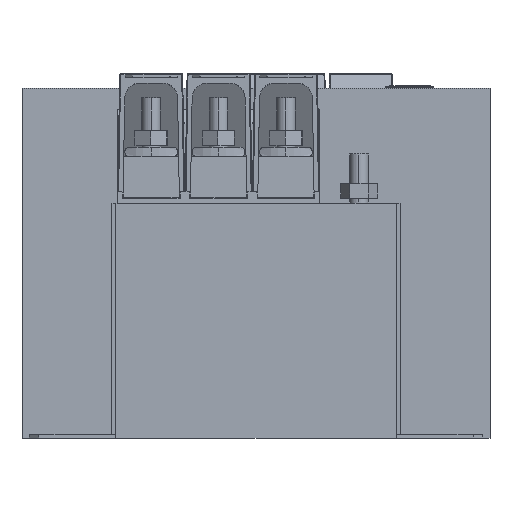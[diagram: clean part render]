
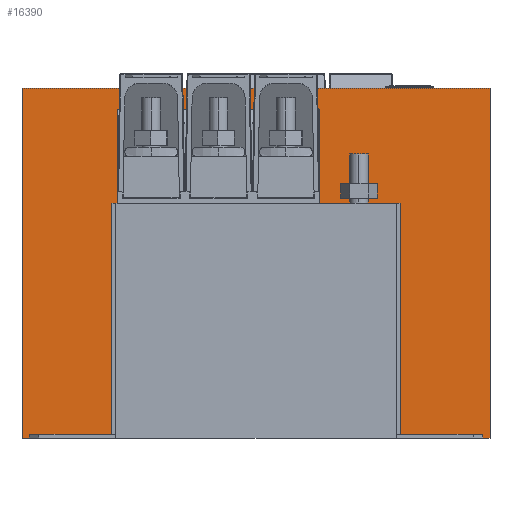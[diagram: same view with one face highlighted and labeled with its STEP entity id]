
A CAD part, front view. The second image highlights one B-rep face of the part: STEP entity #16390.
In plain terms, the highlighted planar face has unit normal (0, -1, 0).
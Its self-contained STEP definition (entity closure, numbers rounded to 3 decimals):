
#161 = LINE ( 'NONE', #14701, #9220 ) ;
#192 = LINE ( 'NONE', #12742, #9658 ) ;
#548 = EDGE_CURVE ( 'NONE', #5777, #17237, #18847, .T. ) ;
#655 = EDGE_LOOP ( 'NONE', ( #5323, #15002, #8562, #17853, #9455, #11563, #7352, #4777, #2252, #10091, #5212, #3419, #3311, #11984, #19832, #18899 ) ) ;
#675 = EDGE_CURVE ( 'NONE', #6131, #16543, #11612, .T. ) ;
#699 = CARTESIAN_POINT ( 'NONE',  ( -123., -305., 2. ) ) ;
#964 = EDGE_CURVE ( 'NONE', #1305, #13252, #19620, .T. ) ;
#1152 = DIRECTION ( 'NONE',  ( 0., 0., -1. ) ) ;
#1181 = DIRECTION ( 'NONE',  ( 1., 0., 0. ) ) ;
#1298 = CARTESIAN_POINT ( 'NONE',  ( -77., -305., 125.5 ) ) ;
#1305 = VERTEX_POINT ( 'NONE', #5159 ) ;
#1452 = VERTEX_POINT ( 'NONE', #3255 ) ;
#1459 = CARTESIAN_POINT ( 'NONE',  ( -121., -305., 2. ) ) ;
#1491 = LINE ( 'NONE', #7853, #10397 ) ;
#1504 = EDGE_CURVE ( 'NONE', #19215, #17696, #17801, .T. ) ;
#1509 = EDGE_CURVE ( 'NONE', #6131, #15026, #4728, .T. ) ;
#1594 = DIRECTION ( 'NONE',  ( 1., 0., 0. ) ) ;
#1954 = LINE ( 'NONE', #2061, #12913 ) ;
#1980 = LINE ( 'NONE', #14408, #10951 ) ;
#2005 = CARTESIAN_POINT ( 'NONE',  ( -74., -305., 125.5 ) ) ;
#2050 = CARTESIAN_POINT ( 'NONE',  ( 125., -305., 187. ) ) ;
#2061 = CARTESIAN_POINT ( 'NONE',  ( 0., -305., 125.5 ) ) ;
#2109 = FACE_OUTER_BOUND ( 'NONE', #655, .T. ) ;
#2196 = CARTESIAN_POINT ( 'NONE',  ( -77., -305., 125.5 ) ) ;
#2231 = EDGE_CURVE ( 'NONE', #15026, #19215, #7043, .T. ) ;
#2252 = ORIENTED_EDGE ( 'NONE', *, *, #1509, .F. ) ;
#3004 = CARTESIAN_POINT ( 'NONE',  ( -73.782, -305., 175.5 ) ) ;
#3255 = CARTESIAN_POINT ( 'NONE',  ( 33.782, -305., 175.5 ) ) ;
#3311 = ORIENTED_EDGE ( 'NONE', *, *, #964, .F. ) ;
#3419 = ORIENTED_EDGE ( 'NONE', *, *, #7430, .F. ) ;
#3456 = VECTOR ( 'NONE', #1594, 1000. ) ;
#3977 = CARTESIAN_POINT ( 'NONE',  ( -125., -305., 187. ) ) ;
#4136 = EDGE_CURVE ( 'NONE', #1305, #19219, #11388, .T. ) ;
#4727 = AXIS2_PLACEMENT_3D ( 'NONE', #13651, #13271, #18692 ) ;
#4728 = LINE ( 'NONE', #16115, #3456 ) ;
#4777 = ORIENTED_EDGE ( 'NONE', *, *, #2231, .F. ) ;
#4801 = VECTOR ( 'NONE', #20620, 1000. ) ;
#5006 = DIRECTION ( 'NONE',  ( -1., 0., 0. ) ) ;
#5159 = CARTESIAN_POINT ( 'NONE',  ( -77., -305., 2. ) ) ;
#5212 = ORIENTED_EDGE ( 'NONE', *, *, #11243, .F. ) ;
#5323 = ORIENTED_EDGE ( 'NONE', *, *, #8635, .F. ) ;
#5777 = VERTEX_POINT ( 'NONE', #12988 ) ;
#6131 = VERTEX_POINT ( 'NONE', #3977 ) ;
#6675 = LINE ( 'NONE', #19440, #7117 ) ;
#6783 = DIRECTION ( 'NONE',  ( 0., 0., 1. ) ) ;
#7043 = LINE ( 'NONE', #16469, #20524 ) ;
#7117 = VECTOR ( 'NONE', #5006, 1000. ) ;
#7283 = PLANE ( 'NONE',  #4727 ) ;
#7352 = ORIENTED_EDGE ( 'NONE', *, *, #1504, .F. ) ;
#7378 = CARTESIAN_POINT ( 'NONE',  ( 121., -305., 2. ) ) ;
#7430 = EDGE_CURVE ( 'NONE', #13252, #14715, #1980, .T. ) ;
#7458 = CARTESIAN_POINT ( 'NONE',  ( 125., -305., 0. ) ) ;
#7568 = VECTOR ( 'NONE', #6783, 1000. ) ;
#7793 = CARTESIAN_POINT ( 'NONE',  ( -125., -305., 0. ) ) ;
#7853 = CARTESIAN_POINT ( 'NONE',  ( 0., -305., 125.5 ) ) ;
#8347 = DIRECTION ( 'NONE',  ( 0., 0., -1. ) ) ;
#8562 = ORIENTED_EDGE ( 'NONE', *, *, #18118, .T. ) ;
#8563 = EDGE_CURVE ( 'NONE', #16748, #1452, #192, .T. ) ;
#8635 = EDGE_CURVE ( 'NONE', #1452, #18900, #6675, .T. ) ;
#9129 = VECTOR ( 'NONE', #13330, 1000. ) ;
#9220 = VECTOR ( 'NONE', #9979, 1000. ) ;
#9455 = ORIENTED_EDGE ( 'NONE', *, *, #11034, .F. ) ;
#9560 = VECTOR ( 'NONE', #14378, 1000. ) ;
#9658 = VECTOR ( 'NONE', #11169, 1000. ) ;
#9979 = DIRECTION ( 'NONE',  ( -1., 0., 0. ) ) ;
#9993 = EDGE_CURVE ( 'NONE', #18900, #16300, #12155, .T. ) ;
#10091 = ORIENTED_EDGE ( 'NONE', *, *, #675, .T. ) ;
#10397 = VECTOR ( 'NONE', #1181, 1000. ) ;
#10657 = CARTESIAN_POINT ( 'NONE',  ( -125., -305., 554.967 ) ) ;
#10709 = CARTESIAN_POINT ( 'NONE',  ( 34., -305., 125.5 ) ) ;
#10727 = LINE ( 'NONE', #11137, #17923 ) ;
#10806 = CARTESIAN_POINT ( 'NONE',  ( -74., -305., 125.5 ) ) ;
#10951 = VECTOR ( 'NONE', #8347, 1000. ) ;
#11034 = EDGE_CURVE ( 'NONE', #15538, #5777, #17112, .T. ) ;
#11108 = EDGE_CURVE ( 'NONE', #17696, #15538, #10727, .T. ) ;
#11137 = CARTESIAN_POINT ( 'NONE',  ( 121., -305., 2. ) ) ;
#11169 = DIRECTION ( 'NONE',  ( -0.004, 0., 1. ) ) ;
#11243 = EDGE_CURVE ( 'NONE', #14715, #16543, #161, .T. ) ;
#11388 = LINE ( 'NONE', #2196, #7568 ) ;
#11455 = VECTOR ( 'NONE', #1152, 1000. ) ;
#11563 = ORIENTED_EDGE ( 'NONE', *, *, #11108, .F. ) ;
#11612 = LINE ( 'NONE', #10657, #11455 ) ;
#11984 = ORIENTED_EDGE ( 'NONE', *, *, #4136, .T. ) ;
#12155 = LINE ( 'NONE', #10806, #17594 ) ;
#12360 = EDGE_CURVE ( 'NONE', #16300, #19219, #1954, .T. ) ;
#12552 = DIRECTION ( 'NONE',  ( 0., 0., 1. ) ) ;
#12742 = CARTESIAN_POINT ( 'NONE',  ( 34., -305., 125.5 ) ) ;
#12913 = VECTOR ( 'NONE', #16485, 1000. ) ;
#12988 = CARTESIAN_POINT ( 'NONE',  ( 77., -305., 2. ) ) ;
#13252 = VERTEX_POINT ( 'NONE', #1459 ) ;
#13271 = DIRECTION ( 'NONE',  ( 0., -1., 0. ) ) ;
#13330 = DIRECTION ( 'NONE',  ( -1., 0., 0. ) ) ;
#13651 = CARTESIAN_POINT ( 'NONE',  ( -123., -305., 2. ) ) ;
#14378 = DIRECTION ( 'NONE',  ( -1., 0., 0. ) ) ;
#14408 = CARTESIAN_POINT ( 'NONE',  ( -121., -305., 2. ) ) ;
#14543 = CARTESIAN_POINT ( 'NONE',  ( 125., -305., 0. ) ) ;
#14701 = CARTESIAN_POINT ( 'NONE',  ( 125., -305., 0. ) ) ;
#14715 = VERTEX_POINT ( 'NONE', #19311 ) ;
#14888 = DIRECTION ( 'NONE',  ( 0., 0., -1. ) ) ;
#15002 = ORIENTED_EDGE ( 'NONE', *, *, #8563, .F. ) ;
#15026 = VERTEX_POINT ( 'NONE', #2050 ) ;
#15203 = DIRECTION ( 'NONE',  ( -0.004, 0., -1. ) ) ;
#15538 = VERTEX_POINT ( 'NONE', #7378 ) ;
#15540 = CARTESIAN_POINT ( 'NONE',  ( 123., -305., 2. ) ) ;
#16115 = CARTESIAN_POINT ( 'NONE',  ( 125., -305., 187. ) ) ;
#16300 = VERTEX_POINT ( 'NONE', #2005 ) ;
#16390 = ADVANCED_FACE ( 'NONE', ( #2109 ), #7283, .T. ) ;
#16469 = CARTESIAN_POINT ( 'NONE',  ( 125., -305., 554.967 ) ) ;
#16485 = DIRECTION ( 'NONE',  ( -1., 0., 0. ) ) ;
#16543 = VERTEX_POINT ( 'NONE', #7793 ) ;
#16748 = VERTEX_POINT ( 'NONE', #10709 ) ;
#17112 = LINE ( 'NONE', #15540, #9560 ) ;
#17237 = VERTEX_POINT ( 'NONE', #20207 ) ;
#17483 = CARTESIAN_POINT ( 'NONE',  ( 77., -305., 125.5 ) ) ;
#17594 = VECTOR ( 'NONE', #15203, 1000. ) ;
#17696 = VERTEX_POINT ( 'NONE', #17983 ) ;
#17801 = LINE ( 'NONE', #14543, #4801 ) ;
#17853 = ORIENTED_EDGE ( 'NONE', *, *, #548, .F. ) ;
#17923 = VECTOR ( 'NONE', #20555, 1000. ) ;
#17983 = CARTESIAN_POINT ( 'NONE',  ( 121., -305., 0. ) ) ;
#18118 = EDGE_CURVE ( 'NONE', #16748, #17237, #1491, .T. ) ;
#18692 = DIRECTION ( 'NONE',  ( 1., 0., 0. ) ) ;
#18847 = LINE ( 'NONE', #17483, #20465 ) ;
#18899 = ORIENTED_EDGE ( 'NONE', *, *, #9993, .F. ) ;
#18900 = VERTEX_POINT ( 'NONE', #3004 ) ;
#19215 = VERTEX_POINT ( 'NONE', #7458 ) ;
#19219 = VERTEX_POINT ( 'NONE', #1298 ) ;
#19311 = CARTESIAN_POINT ( 'NONE',  ( -121., -305., 0. ) ) ;
#19440 = CARTESIAN_POINT ( 'NONE',  ( -74., -305., 175.5 ) ) ;
#19620 = LINE ( 'NONE', #699, #9129 ) ;
#19832 = ORIENTED_EDGE ( 'NONE', *, *, #12360, .F. ) ;
#20207 = CARTESIAN_POINT ( 'NONE',  ( 77., -305., 125.5 ) ) ;
#20465 = VECTOR ( 'NONE', #12552, 1000. ) ;
#20524 = VECTOR ( 'NONE', #14888, 1000. ) ;
#20555 = DIRECTION ( 'NONE',  ( 0., 0., 1. ) ) ;
#20620 = DIRECTION ( 'NONE',  ( -1., 0., 0. ) ) ;
